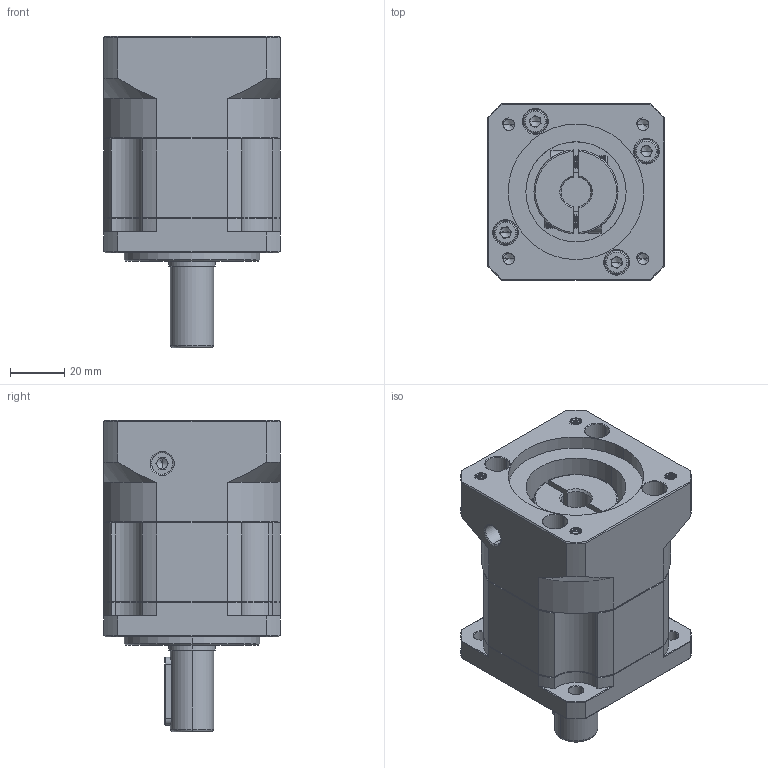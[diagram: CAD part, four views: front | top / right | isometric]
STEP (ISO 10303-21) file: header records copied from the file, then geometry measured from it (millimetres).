
FILE_DESCRIPTION (( 'STEP AP214' ), '1' );
FILE_NAME ('ZB60-D16-L1-11-50-70-M5.STEP', '2022-04-17T07:32:44', ( '' ), ( 'Microsoft' ), 'SwSTEP 2.0', 'SolidWorks 2016', '' );
FILE_SCHEMA (( 'AUTOMOTIVE_DESIGN' ));
Length unit declared in the file: millimetre
Products named in the file (1): ZB60-D16-L1-11-50-70-M5
Bounding box: 65 x 65 x 115 mm (x, y, z)
Volume: 270566.5 mm3; surface area: 55024.1 mm2
Topology: 6 solids, 6 shells, 1886 faces, 5005 edges, 3202 vertices
Faces by surface type: plane 879, cylinder 393, bspline 299, cone 281, torus 34
Entity records: 101727 total; most frequent: CARTESIAN_POINT 36576, ORIENTED_EDGE 9950, DIRECTION 8145, EDGE_CURVE 4975, VERTEX_POINT 3202, LINE 3035, VECTOR 3035, AXIS2_PLACEMENT_3D 2555
